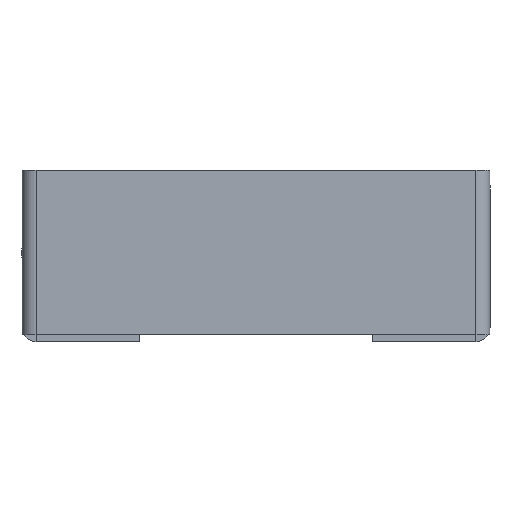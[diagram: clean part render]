
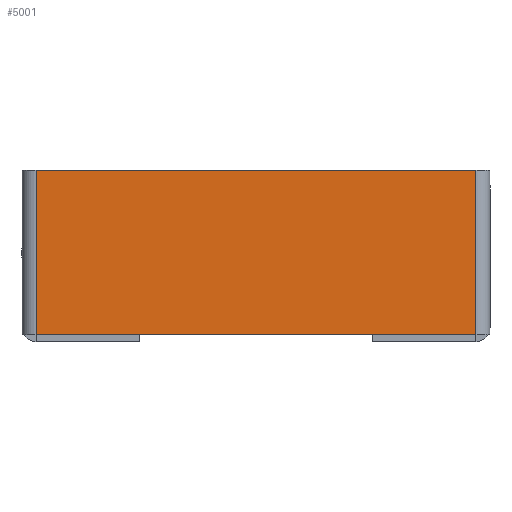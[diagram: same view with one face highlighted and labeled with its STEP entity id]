
A CAD part, front view. The second image highlights one B-rep face of the part: STEP entity #5001.
In plain terms, the highlighted planar face has unit normal (0, -1, 0).
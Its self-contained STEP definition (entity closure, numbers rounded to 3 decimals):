
#43 = VERTEX_POINT ( 'NONE', #6010 ) ;
#53 = VERTEX_POINT ( 'NONE', #1526 ) ;
#234 = CARTESIAN_POINT ( 'NONE',  ( -77.5, -2.5, 0. ) ) ;
#581 = DIRECTION ( 'NONE',  ( 0., 0., -1. ) ) ;
#716 = ORIENTED_EDGE ( 'NONE', *, *, #3459, .F. ) ;
#939 = CARTESIAN_POINT ( 'NONE',  ( 77.5, -2.5, -58. ) ) ;
#995 = LINE ( 'NONE', #1662, #6023 ) ;
#1024 = PLANE ( 'NONE',  #5536 ) ;
#1526 = CARTESIAN_POINT ( 'NONE',  ( 77.5, -2.5, 0. ) ) ;
#1565 = DIRECTION ( 'NONE',  ( 0., 1., 0. ) ) ;
#1587 = ORIENTED_EDGE ( 'NONE', *, *, #4383, .T. ) ;
#1662 = CARTESIAN_POINT ( 'NONE',  ( -80., -2.5, 0. ) ) ;
#1694 = DIRECTION ( 'NONE',  ( 1., 0., 0. ) ) ;
#1960 = EDGE_LOOP ( 'NONE', ( #3042, #7075, #1587, #716 ) ) ;
#2159 = VERTEX_POINT ( 'NONE', #234 ) ;
#2900 = LINE ( 'NONE', #5668, #5698 ) ;
#3042 = ORIENTED_EDGE ( 'NONE', *, *, #6312, .T. ) ;
#3459 = EDGE_CURVE ( 'NONE', #2159, #53, #995, .T. ) ;
#3657 = DIRECTION ( 'NONE',  ( -1., 0., 0. ) ) ;
#3795 = VECTOR ( 'NONE', #3657, 1000. ) ;
#3804 = LINE ( 'NONE', #939, #7164 ) ;
#4383 = EDGE_CURVE ( 'NONE', #43, #53, #3804, .T. ) ;
#4780 = CARTESIAN_POINT ( 'NONE',  ( -80., -2.5, -58. ) ) ;
#4904 = CARTESIAN_POINT ( 'NONE',  ( 0., -2.5, 0. ) ) ;
#4994 = CARTESIAN_POINT ( 'NONE',  ( -77.5, -2.5, -58. ) ) ;
#5001 = ADVANCED_FACE ( 'NONE', ( #6269 ), #1024, .F. ) ;
#5354 = EDGE_CURVE ( 'NONE', #43, #6150, #6964, .T. ) ;
#5528 = DIRECTION ( 'NONE',  ( 0., 0., 1. ) ) ;
#5536 = AXIS2_PLACEMENT_3D ( 'NONE', #4904, #1565, #5528 ) ;
#5668 = CARTESIAN_POINT ( 'NONE',  ( -77.5, -2.5, 0. ) ) ;
#5698 = VECTOR ( 'NONE', #581, 1000. ) ;
#6010 = CARTESIAN_POINT ( 'NONE',  ( 77.5, -2.5, -58. ) ) ;
#6023 = VECTOR ( 'NONE', #1694, 1000. ) ;
#6150 = VERTEX_POINT ( 'NONE', #4994 ) ;
#6269 = FACE_OUTER_BOUND ( 'NONE', #1960, .T. ) ;
#6312 = EDGE_CURVE ( 'NONE', #2159, #6150, #2900, .T. ) ;
#6641 = DIRECTION ( 'NONE',  ( 0., 0., 1. ) ) ;
#6964 = LINE ( 'NONE', #4780, #3795 ) ;
#7075 = ORIENTED_EDGE ( 'NONE', *, *, #5354, .F. ) ;
#7164 = VECTOR ( 'NONE', #6641, 1000. ) ;
